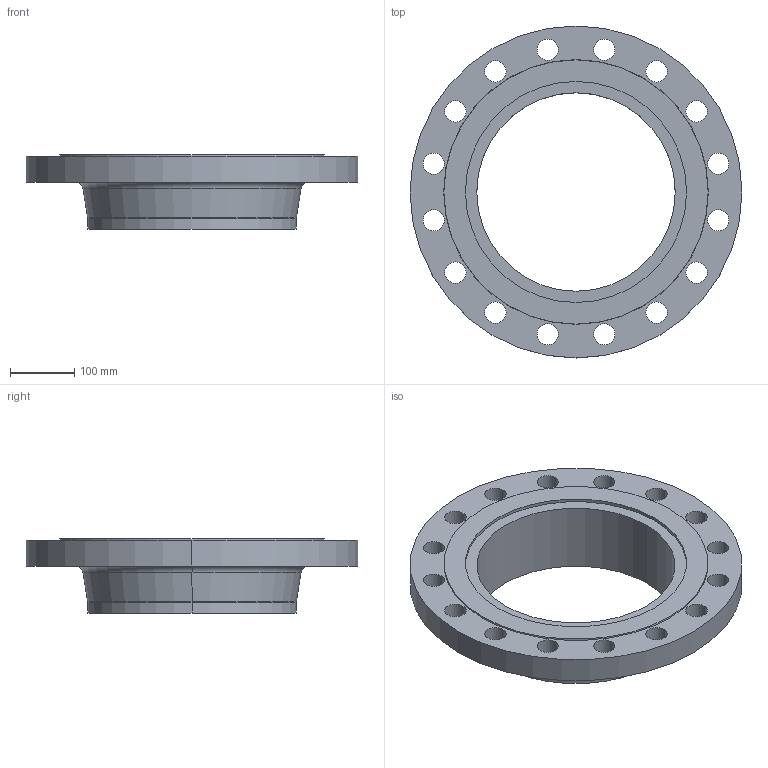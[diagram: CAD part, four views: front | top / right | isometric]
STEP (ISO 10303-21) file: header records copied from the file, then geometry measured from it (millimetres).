
FILE_DESCRIPTION (( 'STEP AP214' ), '1' );
FILE_NAME ('PN40 DN300 Type 11 - Type G Face.STEP', '2019-01-05T20:22:35', ( '' ), ( '' ), 'SwSTEP 2.0', 'SolidWorks 2019', '' );
FILE_SCHEMA (( 'AUTOMOTIVE_DESIGN' ));
Length unit declared in the file: millimetre
Products named in the file (1): PN40 DN300 Type 11 - Type G Face
Bounding box: 515 x 515 x 115 mm (x, y, z)
Volume: 5689720.9 mm3; surface area: 548954.1 mm2
Topology: 1 solids, 1 shells, 53 faces, 138 edges, 90 vertices
Faces by surface type: cylinder 40, plane 5, torus 4, cone 4
Entity records: 1780 total; most frequent: DIRECTION 340, CARTESIAN_POINT 282, ORIENTED_EDGE 276, AXIS2_PLACEMENT_3D 148, EDGE_CURVE 138, CIRCLE 94, EDGE_LOOP 90, VERTEX_POINT 90
